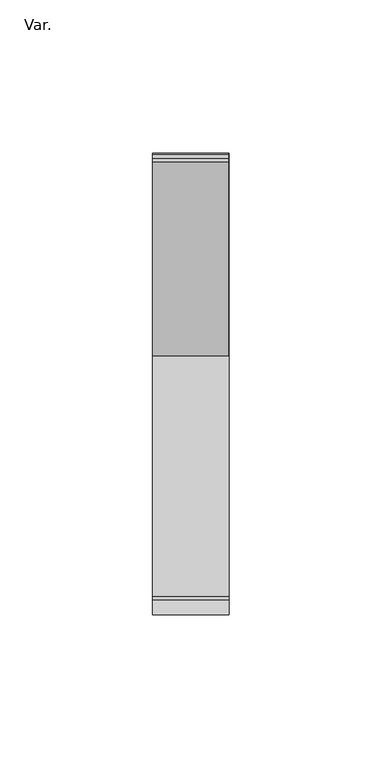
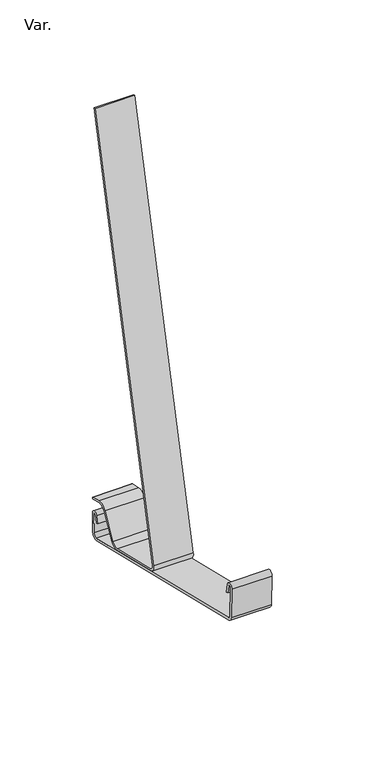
"""IFC4 building model written with IfcOpenShell, lengths in millimetres: pipe fitting geometry, PavcoWavin_UnionesDeTuberia_ZCanal Amazona_Soporte Metálico_NoUsarUnion : Var.."""

import ifcopenshell
import ifcopenshell.guid

model = None  # the IFC model being written
_history = None  # IfcOwnerHistory: only IFC2X3 demands one
_inside = {}  # id of a spatial element -> (the spatial element, [elements in it])
_under = {}  # id of a project, library or spatial element -> (it, [spatial elements below it])
_declared = {}  # id of a project -> (the project, [libraries it declares])
_typed = {}  # id of a type object -> (the type object, [elements of that type])
_made_of = {}  # id of a material, layer set ... -> (it, [elements and type objects made of it])


def new_model(schema):
    """Start an empty IFC model of exactly this schema.

    Asked for "IFC4X3", IfcOpenShell would pick the latest addendum, in which some entities
    have other attributes; the version numbers below select the first issue.
    IFC2X3 requires an IfcOwnerHistory on every rooted entity: one is made here for all.
    """
    global model, _history
    if schema == "IFC4X3":
        model = ifcopenshell.file(schema_version=(4, 3, 0, 0))
    else:
        model = ifcopenshell.file(schema=schema)
    _inside.clear()
    _under.clear()
    _declared.clear()
    _typed.clear()
    _made_of.clear()
    _history = None
    if model.schema == "IFC2X3":
        org = make("IfcOrganization", Name="unknown")
        user = make(
            "IfcPersonAndOrganization",
            ThePerson=make("IfcPerson", FamilyName="unknown"),
            TheOrganization=org,
        )
        app = make(
            "IfcApplication",
            ApplicationDeveloper=org,
            Version="unknown",
            ApplicationFullName="unknown",
            ApplicationIdentifier="unknown",
        )
        _history = make(
            "IfcOwnerHistory",
            OwningUser=user,
            OwningApplication=app,
            ChangeAction="ADDED",
            CreationDate=0,
        )
    return model


def make(cls, **values):
    """One entity of the class cls with the attributes given. An attribute that is None is left unset."""
    return model.create_entity(
        cls, **{name: value for name, value in values.items() if value is not None}
    )


def rooted(cls, **values):
    """An entity with a GlobalId (a new one), such as an element, a storey or a relation."""
    return make(cls, GlobalId=ifcopenshell.guid.new(), OwnerHistory=_history, **values)


def si_unit(unit_type, name, prefix=None):
    """IfcSIUnit, for example si_unit("LENGTHUNIT", "METRE", prefix="MILLI")."""
    return make("IfcSIUnit", UnitType=unit_type, Prefix=prefix, Name=name)


def assignment(units):
    """IfcUnitAssignment: the units of a project."""
    return None if units is None else make("IfcUnitAssignment", Units=units)


def point(xyz):
    """IfcCartesianPoint."""
    return None if xyz is None else make("IfcCartesianPoint", Coordinates=xyz)


def direction(xyz):
    """IfcDirection."""
    return None if xyz is None else make("IfcDirection", DirectionRatios=xyz)


def frame(location, z_axis=None, x_axis=None):
    """IfcAxis2Placement3D, a coordinate frame: its origin and axes. An axis left out is left unset."""
    return make(
        "IfcAxis2Placement3D",
        Location=point(location),
        Axis=direction(z_axis),
        RefDirection=direction(x_axis),
    )


def frame_2d(location, x_axis=None):
    """IfcAxis2Placement2D, a coordinate frame in the plane: its origin and x axis."""
    return make(
        "IfcAxis2Placement2D", Location=point(location), RefDirection=direction(x_axis)
    )


def origin():
    """The frame at (0, 0, 0) with its axes left unset."""
    return frame((0.0, 0.0, 0.0))


def place(relative_to, where):
    """IfcLocalPlacement: puts the frame where relative to a parent placement (None: the world)."""
    return make(
        "IfcLocalPlacement", PlacementRelTo=relative_to, RelativePlacement=where
    )


def context(
    kind, dimensions, precision=None, world=None, true_north=None, identifier=None
):
    """IfcGeometricRepresentationContext, for example the 3D "Model" context."""
    return make(
        "IfcGeometricRepresentationContext",
        ContextIdentifier=identifier,
        ContextType=kind,
        CoordinateSpaceDimension=dimensions,
        Precision=precision,
        WorldCoordinateSystem=world,
        TrueNorth=true_north,
    )


def project(units=None, contexts=None):
    """IfcProject with its units and contexts."""
    return rooted(
        "IfcProject",
        Name="project",
        RepresentationContexts=contexts,
        UnitsInContext=assignment(units),
    )


def spatial(cls, under=None, at=None, **own):
    """A site, building, storey or space (cls), placed at a placement, below another one or the project."""
    s = rooted(cls, ObjectPlacement=at, **own)
    if under is not None:
        _under.setdefault(under.id(), (under, []))[1].append(s)
    return s


def polyline(points):
    """IfcPolyline through the points."""
    return make("IfcPolyline", Points=[point(p) for p in points])


def circle_curve(where, radius):
    """IfcCircle in the frame where."""
    return make("IfcCircle", Position=where, Radius=radius)


def trimmed(basis, trim1, trim2, sense, master):
    """IfcTrimmedCurve: the piece of a basis curve between two trims."""
    return make(
        "IfcTrimmedCurve",
        BasisCurve=basis,
        Trim1=trim1,
        Trim2=trim2,
        SenseAgreement=sense,
        MasterRepresentation=master,
    )


def segment(curve, same_sense, transition):
    """IfcCompositeCurveSegment."""
    return make(
        "IfcCompositeCurveSegment",
        Transition=transition,
        SameSense=same_sense,
        ParentCurve=curve,
    )


def composite_curve(segments, self_intersect=None):
    """IfcCompositeCurve: segments joined end to end."""
    return make("IfcCompositeCurve", Segments=segments, SelfIntersect=self_intersect)


def outline(outer, holes=None, kind="AREA"):
    """IfcArbitraryClosedProfileDef: a profile drawn as a closed curve; with holes, ...WithVoids."""
    if holes is None:
        return make("IfcArbitraryClosedProfileDef", ProfileType=kind, OuterCurve=outer)
    return make(
        "IfcArbitraryProfileDefWithVoids",
        ProfileType=kind,
        OuterCurve=outer,
        InnerCurves=holes,
    )


def extrude(swept, where, along, depth):
    """IfcExtrudedAreaSolid: the profile swept, set in the frame where, extruded along a direction by depth."""
    return make(
        "IfcExtrudedAreaSolid",
        SweptArea=swept,
        Position=where,
        ExtrudedDirection=direction(along),
        Depth=depth,
    )


def shape(context_of_items, identifier, shape_type, items):
    """IfcShapeRepresentation: the items that make up one representation, for example the "Body"."""
    return make(
        "IfcShapeRepresentation",
        ContextOfItems=context_of_items,
        RepresentationIdentifier=identifier,
        RepresentationType=shape_type,
        Items=items,
    )


def source(mapping_origin, context_of_items, identifier, shape_type, items):
    """IfcRepresentationMap: a shape defined once, which mapped items show again and again."""
    return make(
        "IfcRepresentationMap",
        MappingOrigin=mapping_origin,
        MappedRepresentation=shape(context_of_items, identifier, shape_type, items),
    )


def transform(
    local_origin,
    x_axis=None,
    y_axis=None,
    z_axis=None,
    scale=None,
    scale2=None,
    scale3=None,
    uniform=True,
):
    """IfcCartesianTransformationOperator3D, or its non-uniform kind. x_axis, y_axis, z_axis: its Axis1, 2, 3."""
    if uniform:
        return make(
            "IfcCartesianTransformationOperator3D",
            Axis1=direction(x_axis),
            Axis2=direction(y_axis),
            LocalOrigin=point(local_origin),
            Scale=scale,
            Axis3=direction(z_axis),
        )
    return make(
        "IfcCartesianTransformationOperator3DnonUniform",
        Axis1=direction(x_axis),
        Axis2=direction(y_axis),
        LocalOrigin=point(local_origin),
        Scale=scale,
        Axis3=direction(z_axis),
        Scale2=scale2,
        Scale3=scale3,
    )


def mapped(mapping_source, mapping_target):
    """IfcMappedItem: shows the shape of a source again, moved by a transform."""
    return make(
        "IfcMappedItem", MappingSource=mapping_source, MappingTarget=mapping_target
    )


def made_of(thing, what):
    """Note that an element or type object is made of a material, layer set ...; save() writes the relation."""
    if what is not None:
        _made_of.setdefault(what.id(), (what, []))[1].append(thing)
    return thing


def element(
    cls,
    number,
    at=None,
    inside=None,
    cuts=None,
    type_object=None,
    material=None,
    context=None,
    identifier="Body",
    shape_type=None,
    held_by="IfcProductDefinitionShape",
    body=None,
    shapes=None,
    **own,
):
    """One element of the class cls, such as IfcWall. Its Tag is "e" and its number.

    at: its placement. inside: the storey or other place that contains it. cuts: it is an
    opening in that element (IfcRelVoidsElement). A single representation is given by context,
    identifier, shape_type and body (its items); several are given by shapes. held_by: the class
    of the entity that holds the representations. save() writes the other relations.
    """
    e = rooted(cls, Tag="e%d" % number, ObjectPlacement=at, **own)
    if body is not None:
        shapes = [shape(context, identifier, shape_type, body)]
    if shapes is not None:
        e.Representation = make(held_by, Representations=shapes)
    if inside is not None:
        _inside.setdefault(inside.id(), (inside, []))[1].append(e)
    if cuts is not None:
        rooted(
            "IfcRelVoidsElement", RelatingBuildingElement=cuts, RelatedOpeningElement=e
        )
    if type_object is not None:
        _typed.setdefault(type_object.id(), (type_object, []))[1].append(e)
    return made_of(e, material)


def aggregate(whole, parts):
    """IfcRelAggregates: a whole, such as a stair, and the parts it consists of."""
    return rooted("IfcRelAggregates", RelatingObject=whole, RelatedObjects=parts)


def save(model, path):
    """Write the relations noted so far, then the file.

    IfcRelAggregates (storeys below a building ...), IfcRelContainedInSpatialStructure (elements
    in a storey), IfcRelDefinesByType, IfcRelAssociatesMaterial and IfcRelDeclares: one each for
    every whole, place, type object, material and project.
    """
    for whole, parts in _under.values():
        aggregate(whole, parts)
    for where, things in _inside.values():
        rooted(
            "IfcRelContainedInSpatialStructure",
            RelatedElements=things,
            RelatingStructure=where,
        )
    for kind, things in _typed.values():
        rooted("IfcRelDefinesByType", RelatedObjects=things, RelatingType=kind)
    for what, things in _made_of.values():
        rooted("IfcRelAssociatesMaterial", RelatedObjects=things, RelatingMaterial=what)
    for by, libraries in _declared.values():
        rooted("IfcRelDeclares", RelatingContext=by, RelatedDefinitions=libraries)
    model.write(path)


def var_775c7385(model_context):
    return source(origin(), model_context, "Body", "SweptSolid", [
        extrude(outline(composite_curve([segment(polyline([(-69.270156, -89.7856309), (73.7658664, -124.1255416)]), True, "CONTINUOUS"), segment(trimmed(circle_curve(frame_2d((74.0088381, -122.1403553)), 2.0), [point((73.7658664, -124.1255416))], [point((76.0088379, -122.141128))], True, "CARTESIAN"), True, "CONTINUOUS"), segment(polyline([(76.0088379, -122.141128), (76.3297673, -109.8853292)]), True, "CONTINUOUS"), segment(trimmed(circle_curve(frame_2d((75.4513111, -109.862326)), 0.8787573), [point((76.3297673, -109.8853292))], [point((74.6581577, -109.4840113))], True, "CARTESIAN"), True, "CONTINUOUS"), segment(polyline([(74.6581577, -109.4840113), (73.5360816, -114.1577944), (72.0775267, -113.8076264), (73.227369, -109.0181887)]), True, "CONTINUOUS"), segment(trimmed(circle_curve(frame_2d((75.4513111, -109.862326)), 2.3787573), [point((73.227369, -109.0181887))], [point((77.8292533, -109.9245947))], False, "CARTESIAN"), True, "CONTINUOUS"), segment(polyline([(77.8292533, -109.9245947), (77.5087599, -122.1637423)]), True, "CONTINUOUS"), segment(trimmed(circle_curve(frame_2d((74.0088381, -122.1403553)), 3.5), [point((77.5087599, -122.1637423))], [point((73.4872239, -125.6012683))], False, "CARTESIAN"), True, "CONTINUOUS"), segment(polyline([(73.4872239, -125.6012683), (-69.6203241, -91.2441858)]), True, "CONTINUOUS"), segment(trimmed(circle_curve(frame_2d((-68.8032653, -87.840891)), 3.5), [point((-69.6203241, -91.2441858))], [point((-72.2836209, -88.2111953))], False, "CARTESIAN"), True, "CONTINUOUS"), segment(polyline([(-72.2836209, -88.2111953), (-73.1234381, -68.9762181)]), True, "CONTINUOUS"), segment(trimmed(circle_curve(frame_2d((-70.6407068, -68.8678197)), 2.4850966), [point((-73.1234381, -68.9762181))], [point((-68.2463907, -68.2022704))], False, "CARTESIAN"), True, "CONTINUOUS"), segment(polyline([(-68.2463907, -68.2022704), (-67.1043398, -74.364226), (-68.7009269, -73.9809194), (-69.7065164, -68.555244)]), True, "CONTINUOUS"), segment(trimmed(circle_curve(frame_2d((-70.6407068, -68.8678197)), 0.9850966), [point((-69.7065164, -68.555244))], [point((-71.6248658, -68.910789))], True, "CARTESIAN"), True, "CONTINUOUS"), segment(polyline([(-71.6248658, -68.910789), (-70.7873735, -88.0925149)]), True, "CONTINUOUS"), segment(trimmed(circle_curve(frame_2d((-68.8032653, -87.840891)), 2.0), [point((-70.7873735, -88.0925149))], [point((-69.270156, -89.7856309))], True, "CARTESIAN"), True, "CONTINUOUS")], self_intersect=False)), frame((0.0, 0.0, 0.0), z_axis=(1.0, 0.0, 0.0), x_axis=(0.0, 1.0, 0.0)), (0.0, 0.0, 1.0), 25.0),
        extrude(outline(composite_curve([segment(polyline([(11.6617242, -104.8963125), (74.8496695, 158.3004215), (76.0165134, 158.020287), (12.8285681, -105.1764469)]), True, "CONTINUOUS"), segment(trimmed(circle_curve(frame_2d((15.7456779, -105.876783)), 3.0), [point((12.8285681, -105.1764469))], [point((15.0453418, -108.7938927))], True, "CARTESIAN"), True, "CONTINUOUS"), segment(polyline([(15.0453418, -108.7938927), (50.758271, -117.3678085)]), True, "CONTINUOUS"), segment(trimmed(circle_curve(frame_2d((52.0004048, -112.7830943)), 4.75), [point((50.758271, -117.3678085))], [point((55.8117747, -115.6178712))], True, "CARTESIAN"), True, "CONTINUOUS"), segment(polyline([(55.8117747, -115.6178712), (64.3269918, -100.5672759)]), True, "CONTINUOUS"), segment(trimmed(circle_curve(frame_2d((69.5056081, -103.4971961)), 5.95), [point((64.3269918, -100.5672759))], [point((70.4969174, -97.6303566))], False, "CARTESIAN"), True, "CONTINUOUS"), segment(polyline([(70.4969174, -97.6303566), (77.2927473, -99.261891)]), True, "CONTINUOUS"), segment(trimmed(circle_curve(frame_2d((77.153006, -99.8439554)), 0.5986038), [point((77.2927473, -99.261891))], [point((77.0132647, -100.4260198))], False, "CARTESIAN"), True, "CONTINUOUS"), segment(polyline([(77.0132647, -100.4260198), (70.2969895, -98.8135847)]), True, "CONTINUOUS"), segment(trimmed(circle_curve(frame_2d((69.5056081, -103.4971961)), 4.75), [point((70.2969895, -98.8135847))], [point((65.3714186, -101.1581842))], True, "CARTESIAN"), True, "CONTINUOUS"), segment(polyline([(65.3714186, -101.1581842), (56.8214129, -116.2702682)]), True, "CONTINUOUS"), segment(trimmed(circle_curve(frame_2d((52.0004048, -112.7830943)), 5.95), [point((56.8214129, -116.2702682))], [point((50.4621911, -118.5308242))], False, "CARTESIAN"), True, "CONTINUOUS"), segment(polyline([(50.4621911, -118.5308242), (14.7652073, -109.9607367)]), True, "CONTINUOUS"), segment(trimmed(circle_curve(frame_2d((15.7456779, -105.876783)), 4.2), [point((14.7652073, -109.9607367))], [point((11.6617242, -104.8963125))], False, "CARTESIAN"), True, "CONTINUOUS")], self_intersect=False)), frame((0.0, 0.0, 0.0), z_axis=(1.0, 0.0, 0.0), x_axis=(0.0, 1.0, 0.0)), (0.0, 0.0, 1.0), 24.7),
    ])


if __name__ == "__main__":
    model = new_model("IFC4")
    model_context = context("Model", 3, world=origin())
    ifc_project = project(units=[si_unit("LENGTHUNIT", "METRE", prefix="MILLI")], contexts=[model_context])
    site = spatial("IfcSite", under=ifc_project)
    building = spatial("IfcBuilding", under=site)
    placement = place(None, origin())
    var_shape = var_775c7385(model_context)
    element("IfcPipeFitting", 1, ObjectType="PavcoWavin_UnionesDeTuberia_ZCanal Amazona_Soporte Metálico_NoUsarUnion : Var.", at=placement, inside=building, context=model_context, shape_type="MappedRepresentation", body=[
        mapped(var_shape, transform((0.0, 0.0, 0.0), x_axis=(1.0, 0.0, 0.0), y_axis=(0.0, 1.0, 0.0), z_axis=(0.0, 0.0, 1.0))),
    ])
    save(model, "model.ifc")
